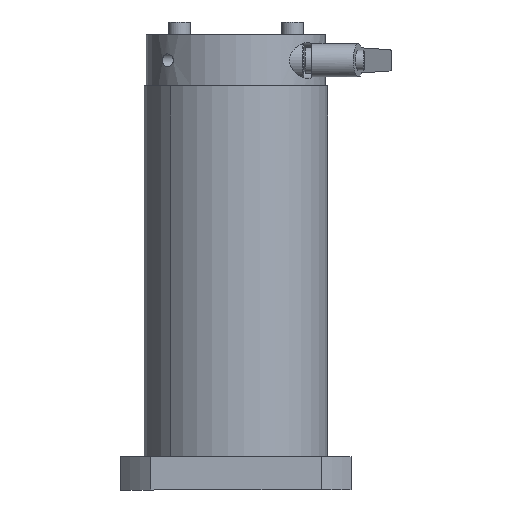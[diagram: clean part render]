
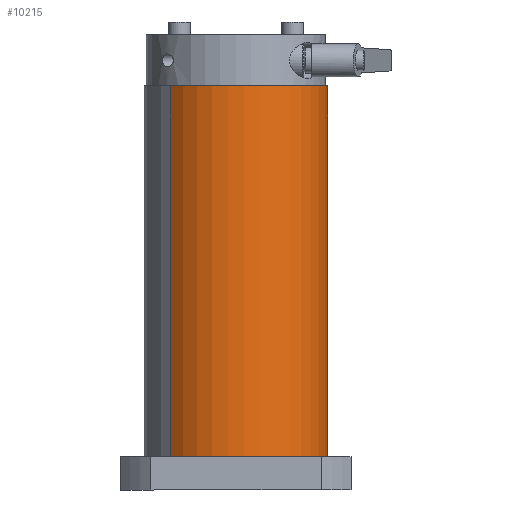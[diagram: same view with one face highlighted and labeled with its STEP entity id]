
A CAD part, front view. The second image highlights one B-rep face of the part: STEP entity #10215.
In plain terms, the highlighted cylindrical face has radius 36 mm (diameter 72 mm), a partial arc.
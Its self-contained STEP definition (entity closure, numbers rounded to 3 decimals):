
#111 = EDGE_LOOP ( 'NONE', ( #1959, #2445, #6275, #7850 ) ) ;
#135 = CARTESIAN_POINT ( 'NONE',  ( 19.178, 25.208, 164.892 ) ) ;
#136 = LINE ( 'NONE', #977, #4359 ) ;
#339 = VERTEX_POINT ( 'NONE', #5917 ) ;
#565 = VERTEX_POINT ( 'NONE', #3946 ) ;
#977 = CARTESIAN_POINT ( 'NONE',  ( -31.733, -25.704, 164.892 ) ) ;
#1067 = CARTESIAN_POINT ( 'NONE',  ( -6.277, -0.248, 164.892 ) ) ;
#1197 = EDGE_CURVE ( 'NONE', #565, #339, #6817, .T. ) ;
#1389 = DIRECTION ( 'NONE',  ( 0.707, 0.707, 0. ) ) ;
#1959 = ORIENTED_EDGE ( 'NONE', *, *, #1197, .T. ) ;
#2007 = LINE ( 'NONE', #135, #5804 ) ;
#2445 = ORIENTED_EDGE ( 'NONE', *, *, #4809, .T. ) ;
#2646 = AXIS2_PLACEMENT_3D ( 'NONE', #4344, #7776, #8041 ) ;
#2823 = DIRECTION ( 'NONE',  ( 0., 0., -1. ) ) ;
#3540 = DIRECTION ( 'NONE',  ( 0., 0., -1. ) ) ;
#3572 = FACE_OUTER_BOUND ( 'NONE', #111, .T. ) ;
#3592 = DIRECTION ( 'NONE',  ( 0., 0., -1. ) ) ;
#3687 = CARTESIAN_POINT ( 'NONE',  ( 19.178, 25.208, 92.392 ) ) ;
#3946 = CARTESIAN_POINT ( 'NONE',  ( 19.178, 25.208, 237.392 ) ) ;
#4344 = CARTESIAN_POINT ( 'NONE',  ( -6.277, -0.248, 237.392 ) ) ;
#4359 = VECTOR ( 'NONE', #3540, 1000. ) ;
#4390 = EDGE_CURVE ( 'NONE', #565, #9996, #2007, .T. ) ;
#4809 = EDGE_CURVE ( 'NONE', #339, #4843, #136, .T. ) ;
#4843 = VERTEX_POINT ( 'NONE', #7165 ) ;
#5175 = AXIS2_PLACEMENT_3D ( 'NONE', #6775, #8411, #1389 ) ;
#5804 = VECTOR ( 'NONE', #3592, 1000. ) ;
#5917 = CARTESIAN_POINT ( 'NONE',  ( -31.733, -25.704, 237.392 ) ) ;
#6275 = ORIENTED_EDGE ( 'NONE', *, *, #9792, .F. ) ;
#6775 = CARTESIAN_POINT ( 'NONE',  ( -6.277, -0.248, 92.392 ) ) ;
#6817 = CIRCLE ( 'NONE', #2646, 36. ) ;
#6876 = CYLINDRICAL_SURFACE ( 'NONE', #9348, 36. ) ;
#7165 = CARTESIAN_POINT ( 'NONE',  ( -31.733, -25.704, 92.392 ) ) ;
#7776 = DIRECTION ( 'NONE',  ( 0., 0., -1. ) ) ;
#7850 = ORIENTED_EDGE ( 'NONE', *, *, #4390, .F. ) ;
#8041 = DIRECTION ( 'NONE',  ( 0.707, 0.707, 0. ) ) ;
#8411 = DIRECTION ( 'NONE',  ( 0., 0., -1. ) ) ;
#9000 = DIRECTION ( 'NONE',  ( 0.707, 0.707, 0. ) ) ;
#9120 = CIRCLE ( 'NONE', #5175, 36. ) ;
#9348 = AXIS2_PLACEMENT_3D ( 'NONE', #1067, #2823, #9000 ) ;
#9792 = EDGE_CURVE ( 'NONE', #9996, #4843, #9120, .T. ) ;
#9996 = VERTEX_POINT ( 'NONE', #3687 ) ;
#10215 = ADVANCED_FACE ( 'NONE', ( #3572 ), #6876, .T. ) ;
